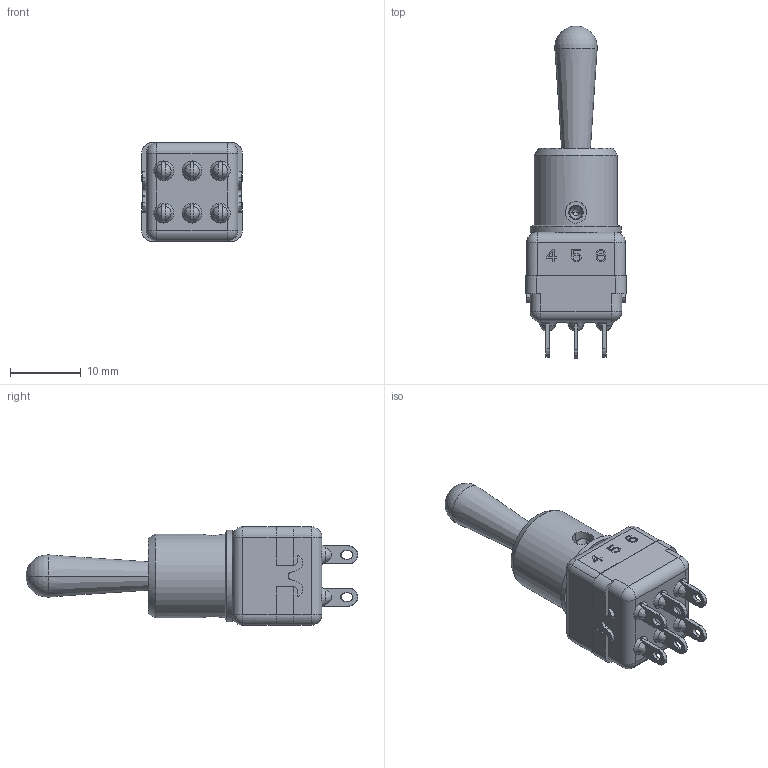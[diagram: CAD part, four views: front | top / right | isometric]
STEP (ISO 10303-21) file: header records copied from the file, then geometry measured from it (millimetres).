
FILE_DESCRIPTION((''),'2;1');
FILE_NAME('1214__K_','2012-06-04T',('francis'),(''),'PRO/ENGINEER BY PARAMETRIC TECHNOLOGY CORPORATION, 2011250','PRO/ENGINEER BY PARAMETRIC TECHNOLOGY CORPORATION, 2011250','');
FILE_SCHEMA(('CONFIG_CONTROL_DESIGN'));
Length unit declared in the file: millimetre
Products named in the file (1): 1214__K_
Bounding box: 14.25 x 47 x 14 mm (x, y, z)
Volume: 2530.4 mm3; surface area: 4480.8 mm2
Topology: 2 solids, 2 shells, 800 faces, 2288 edges, 1483 vertices
Faces by surface type: plane 587, cylinder 139, bspline 24, cone 22, sphere 14, torus 14
Entity records: 27736 total; most frequent: CARTESIAN_POINT 6858, ORIENTED_EDGE 4564, DIRECTION 4049, EDGE_CURVE 2282, VECTOR 1767, LINE 1767, VERTEX_POINT 1483, AXIS2_PLACEMENT_3D 1141
